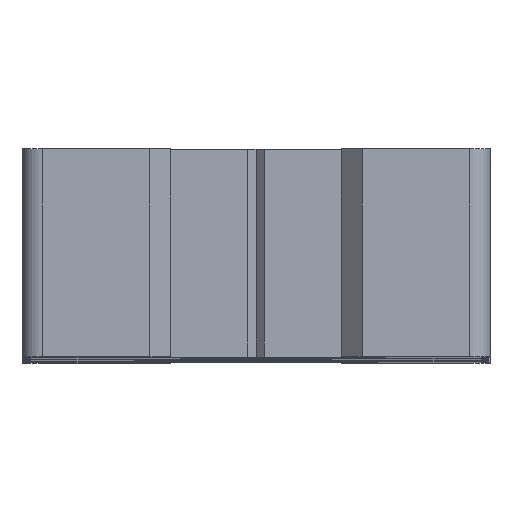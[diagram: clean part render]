
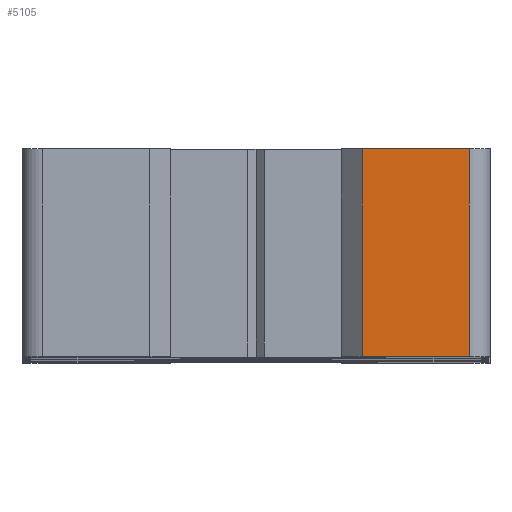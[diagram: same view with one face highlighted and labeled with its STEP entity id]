
A CAD part, top view. The second image highlights one B-rep face of the part: STEP entity #5105.
In plain terms, the highlighted planar face has unit normal (0, 0, 1).
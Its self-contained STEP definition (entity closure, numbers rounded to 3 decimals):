
#421=DIRECTION('',(1.,0.,0.));
#422=VECTOR('',#421,5.15);
#423=CARTESIAN_POINT('',(5.1,0.,90.));
#424=LINE('',#423,#422);
#1077=DIRECTION('',(1.,0.,0.));
#1078=VECTOR('',#1077,5.15);
#1079=CARTESIAN_POINT('',(5.1,10.,90.));
#1080=LINE('',#1079,#1078);
#1811=DIRECTION('',(0.,-1.,0.));
#1812=VECTOR('',#1811,10.);
#1813=CARTESIAN_POINT('',(10.25,10.,90.));
#1814=LINE('',#1813,#1812);
#1829=DIRECTION('',(0.,1.,0.));
#1830=VECTOR('',#1829,10.);
#1831=CARTESIAN_POINT('',(5.1,0.,90.));
#1832=LINE('',#1831,#1830);
#2781=CARTESIAN_POINT('',(5.1,0.,90.));
#2782=CARTESIAN_POINT('',(5.1,10.,90.));
#2783=VERTEX_POINT('',#2781);
#2784=VERTEX_POINT('',#2782);
#2941=CARTESIAN_POINT('',(10.25,10.,90.));
#2942=CARTESIAN_POINT('',(10.25,0.,90.));
#2943=VERTEX_POINT('',#2941);
#2944=VERTEX_POINT('',#2942);
#5093=CARTESIAN_POINT('',(-11.25,0.,90.));
#5094=DIRECTION('',(0.,0.,1.));
#5095=DIRECTION('',(1.,0.,0.));
#5096=AXIS2_PLACEMENT_3D('',#5093,#5094,#5095);
#5097=PLANE('',#5096);
#5098=ORIENTED_EDGE('',*,*,#5085,.T.);
#5099=ORIENTED_EDGE('',*,*,#3562,.F.);
#5101=ORIENTED_EDGE('',*,*,#5100,.T.);
#5102=ORIENTED_EDGE('',*,*,#3980,.T.);
#5103=EDGE_LOOP('',(#5098,#5099,#5101,#5102));
#5104=FACE_OUTER_BOUND('',#5103,.F.);
#5105=ADVANCED_FACE('',(#5104),#5097,.T.);
#3562=EDGE_CURVE('',#2783,#2944,#424,.T.);
#3980=EDGE_CURVE('',#2784,#2943,#1080,.T.);
#5085=EDGE_CURVE('',#2943,#2944,#1814,.T.);
#5100=EDGE_CURVE('',#2783,#2784,#1832,.T.);
